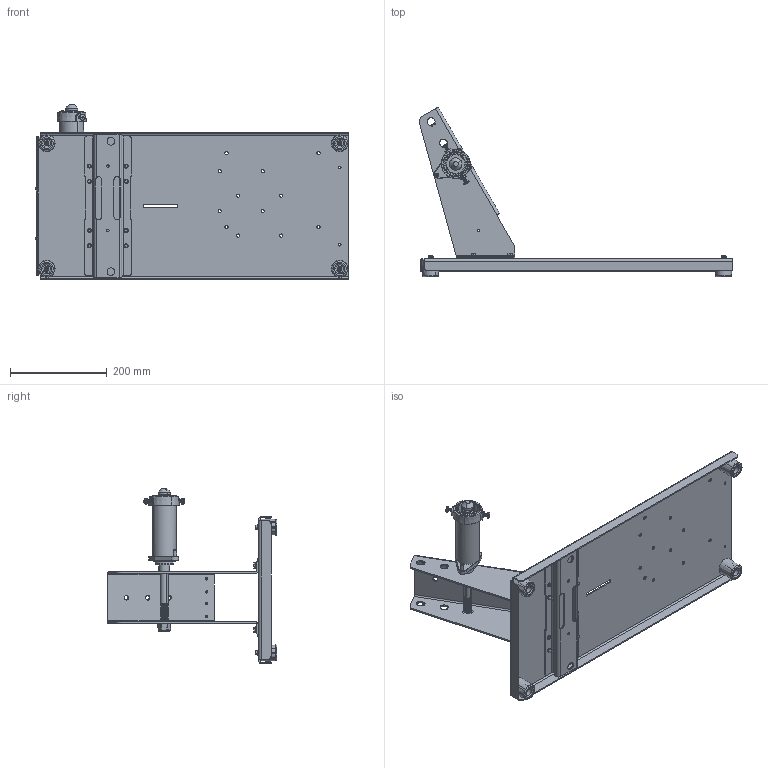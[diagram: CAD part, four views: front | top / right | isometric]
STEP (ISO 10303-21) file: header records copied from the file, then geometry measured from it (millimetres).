
FILE_DESCRIPTION (( 'STEP AP214' ), '1' );
FILE_NAME ('301752.STEP', '2024-05-28T16:31:21', ( '' ), ( '' ), 'SwSTEP 2.0', 'SolidWorks 2022', '' );
FILE_SCHEMA (( 'AUTOMOTIVE_DESIGN' ));
Length unit declared in the file: inch
Products named in the file (1): 301752
Bounding box: 648.74 x 351.44 x 363.02 mm (x, y, z)
Volume: 1293470 mm3; surface area: 887415.1 mm2
Topology: 42 solids, 42 shells, 1767 faces, 4438 edges, 2814 vertices
Faces by surface type: cylinder 757, plane 648, cone 150, torus 131, bspline 66, sphere 15
Entity records: 83905 total; most frequent: CARTESIAN_POINT 17495, DIRECTION 9238, ORIENTED_EDGE 8818, EDGE_CURVE 4409, AXIS2_PLACEMENT_3D 3613, VERTEX_POINT 2811, EDGE_LOOP 2026, LINE 2012
